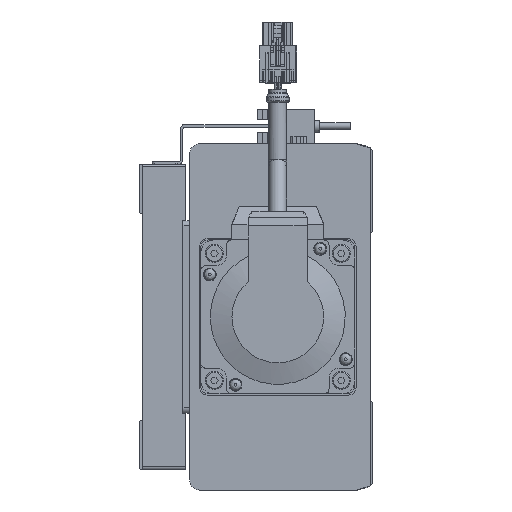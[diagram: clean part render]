
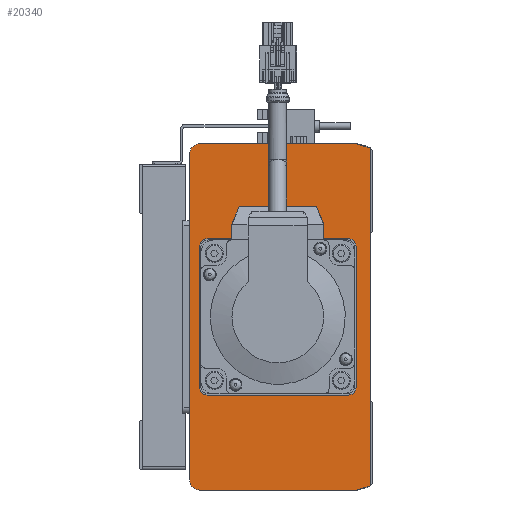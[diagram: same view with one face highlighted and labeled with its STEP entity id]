
A CAD part, left-side view. The second image highlights one B-rep face of the part: STEP entity #20340.
In plain terms, the highlighted planar face has unit normal (-1, 0, 0) as drawn and (0, 0, 1) by its records, which use the part's own axes.
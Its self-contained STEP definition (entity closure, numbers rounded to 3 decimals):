
#950=CIRCLE('',#22085,4.);
#951=CIRCLE('',#22089,3.);
#953=CIRCLE('',#22093,3.);
#955=CIRCLE('',#22097,3.);
#957=CIRCLE('',#22101,3.);
#959=CIRCLE('',#22104,4.);
#5768=ORIENTED_EDGE('',*,*,#9071,.F.);
#5769=ORIENTED_EDGE('',*,*,#9075,.F.);
#5770=ORIENTED_EDGE('',*,*,#9078,.F.);
#5771=ORIENTED_EDGE('',*,*,#9081,.F.);
#5772=ORIENTED_EDGE('',*,*,#9084,.F.);
#5773=ORIENTED_EDGE('',*,*,#9087,.F.);
#5774=ORIENTED_EDGE('',*,*,#9090,.F.);
#5775=ORIENTED_EDGE('',*,*,#9093,.F.);
#5776=ORIENTED_EDGE('',*,*,#9016,.T.);
#5777=ORIENTED_EDGE('',*,*,#9027,.T.);
#5778=ORIENTED_EDGE('',*,*,#9030,.T.);
#5779=ORIENTED_EDGE('',*,*,#9040,.T.);
#5780=ORIENTED_EDGE('',*,*,#9049,.T.);
#5781=ORIENTED_EDGE('',*,*,#9059,.T.);
#5782=ORIENTED_EDGE('',*,*,#9065,.T.);
#5783=ORIENTED_EDGE('',*,*,#9095,.T.);
#9016=EDGE_CURVE('',#11121,#11122,#13240,.T.);
#9027=EDGE_CURVE('',#11122,#11131,#13251,.T.);
#9030=EDGE_CURVE('',#11131,#11133,#13254,.T.);
#9040=EDGE_CURVE('',#11133,#11141,#13264,.T.);
#9049=EDGE_CURVE('',#11141,#11147,#13273,.T.);
#9059=EDGE_CURVE('',#11147,#11155,#950,.T.);
#9065=EDGE_CURVE('',#11155,#11160,#13288,.T.);
#9071=EDGE_CURVE('',#11163,#11164,#13294,.T.);
#9075=EDGE_CURVE('',#11167,#11163,#951,.T.);
#9078=EDGE_CURVE('',#11169,#11167,#13299,.T.);
#9081=EDGE_CURVE('',#11171,#11169,#953,.T.);
#9084=EDGE_CURVE('',#11173,#11171,#13303,.T.);
#9087=EDGE_CURVE('',#11175,#11173,#955,.T.);
#9090=EDGE_CURVE('',#11177,#11175,#13307,.T.);
#9093=EDGE_CURVE('',#11164,#11177,#957,.T.);
#9095=EDGE_CURVE('',#11160,#11121,#959,.T.);
#11121=VERTEX_POINT('',#33211);
#11122=VERTEX_POINT('',#33212);
#11131=VERTEX_POINT('',#33233);
#11133=VERTEX_POINT('',#33239);
#11141=VERTEX_POINT('',#33258);
#11147=VERTEX_POINT('',#33274);
#11155=VERTEX_POINT('',#33293);
#11160=VERTEX_POINT('',#33304);
#11163=VERTEX_POINT('',#33315);
#11164=VERTEX_POINT('',#33316);
#11167=VERTEX_POINT('',#33324);
#11169=VERTEX_POINT('',#33330);
#11171=VERTEX_POINT('',#33336);
#11173=VERTEX_POINT('',#33342);
#11175=VERTEX_POINT('',#33348);
#11177=VERTEX_POINT('',#33354);
#13240=LINE('',#33210,#15349);
#13251=LINE('',#33232,#15360);
#13254=LINE('',#33238,#15363);
#13264=LINE('',#33257,#15373);
#13273=LINE('',#33273,#15382);
#13288=LINE('',#33305,#15397);
#13294=LINE('',#33314,#15403);
#13299=LINE('',#33329,#15408);
#13303=LINE('',#33341,#15412);
#13307=LINE('',#33353,#15416);
#15349=VECTOR('',#27157,1000.);
#15360=VECTOR('',#27170,1000.);
#15363=VECTOR('',#27175,1000.);
#15373=VECTOR('',#27187,1000.);
#15382=VECTOR('',#27198,1000.);
#15397=VECTOR('',#27219,1000.);
#15403=VECTOR('',#27227,1000.);
#15408=VECTOR('',#27240,1000.);
#15412=VECTOR('',#27252,1000.);
#15416=VECTOR('',#27264,1000.);
#16814=EDGE_LOOP('',(#5768,#5769,#5770,#5771,#5772,#5773,#5774,#5775));
#16815=EDGE_LOOP('',(#5776,#5777,#5778,#5779,#5780,#5781,#5782,#5783));
#18297=FACE_BOUND('',#16814,.T.);
#18298=FACE_BOUND('',#16815,.T.);
#19290=PLANE('',#22112);
#20340=ADVANCED_FACE('',(#18297,#18298),#19290,.T.);
#22085=AXIS2_PLACEMENT_3D('',#33292,#27210,#27211);
#22089=AXIS2_PLACEMENT_3D('',#33323,#27233,#27234);
#22093=AXIS2_PLACEMENT_3D('',#33335,#27245,#27246);
#22097=AXIS2_PLACEMENT_3D('',#33347,#27257,#27258);
#22101=AXIS2_PLACEMENT_3D('',#33359,#27269,#27270);
#22104=AXIS2_PLACEMENT_3D('',#33362,#27275,#27276);
#22112=AXIS2_PLACEMENT_3D('',#33382,#27295,#27296);
#27157=DIRECTION('',(0.,-1.,0.));
#27170=DIRECTION('',(0.3,-0.954,0.));
#27175=DIRECTION('',(1.,0.,0.));
#27187=DIRECTION('',(0.3,0.954,0.));
#27198=DIRECTION('',(0.,1.,0.));
#27210=DIRECTION('',(0.,0.,1.));
#27211=DIRECTION('',(1.,0.,0.));
#27219=DIRECTION('',(-1.,0.,0.));
#27227=DIRECTION('',(0.,-1.,0.));
#27233=DIRECTION('',(0.,0.,1.));
#27234=DIRECTION('',(1.,0.,0.));
#27240=DIRECTION('',(-1.,0.,0.));
#27245=DIRECTION('',(0.,0.,1.));
#27246=DIRECTION('',(1.,0.,0.));
#27252=DIRECTION('',(0.,1.,0.));
#27257=DIRECTION('',(0.,0.,1.));
#27258=DIRECTION('',(1.,0.,0.));
#27264=DIRECTION('',(1.,0.,0.));
#27269=DIRECTION('',(0.,0.,1.));
#27270=DIRECTION('',(1.,0.,0.));
#27275=DIRECTION('',(0.,0.,1.));
#27276=DIRECTION('',(1.,0.,0.));
#27295=DIRECTION('',(0.,0.,1.));
#27296=DIRECTION('',(1.,0.,0.));
#33210=CARTESIAN_POINT('',(-67.5,67.4,0.));
#33211=CARTESIAN_POINT('',(-67.5,67.4,0.));
#33212=CARTESIAN_POINT('',(-67.5,6.241,0.));
#33232=CARTESIAN_POINT('',(-67.5,6.241,0.));
#33233=CARTESIAN_POINT('',(-65.854,1.,0.));
#33238=CARTESIAN_POINT('',(-65.854,1.,0.));
#33239=CARTESIAN_POINT('',(65.854,1.,0.));
#33257=CARTESIAN_POINT('',(65.854,1.,0.));
#33258=CARTESIAN_POINT('',(67.5,6.241,0.));
#33273=CARTESIAN_POINT('',(67.5,6.241,0.));
#33274=CARTESIAN_POINT('',(67.5,67.4,0.));
#33292=CARTESIAN_POINT('',(63.5,67.4,0.));
#33293=CARTESIAN_POINT('',(63.5,71.4,0.));
#33304=CARTESIAN_POINT('',(-63.5,71.4,0.));
#33305=CARTESIAN_POINT('',(63.5,71.4,0.));
#33314=CARTESIAN_POINT('',(-30.5,64.5,0.));
#33315=CARTESIAN_POINT('',(-30.5,64.5,0.));
#33316=CARTESIAN_POINT('',(-30.5,9.5,0.));
#33323=CARTESIAN_POINT('',(-27.5,64.5,0.));
#33324=CARTESIAN_POINT('',(-27.5,67.5,0.));
#33329=CARTESIAN_POINT('',(27.5,67.5,0.));
#33330=CARTESIAN_POINT('',(27.5,67.5,0.));
#33335=CARTESIAN_POINT('',(27.5,64.5,0.));
#33336=CARTESIAN_POINT('',(30.5,64.5,0.));
#33341=CARTESIAN_POINT('',(30.5,9.5,0.));
#33342=CARTESIAN_POINT('',(30.5,9.5,0.));
#33347=CARTESIAN_POINT('',(27.5,9.5,0.));
#33348=CARTESIAN_POINT('',(27.5,6.5,0.));
#33353=CARTESIAN_POINT('',(-27.5,6.5,0.));
#33354=CARTESIAN_POINT('',(-27.5,6.5,0.));
#33359=CARTESIAN_POINT('',(-27.5,9.5,0.));
#33362=CARTESIAN_POINT('',(-63.5,67.4,0.));
#33382=CARTESIAN_POINT('',(63.5,67.4,0.));
